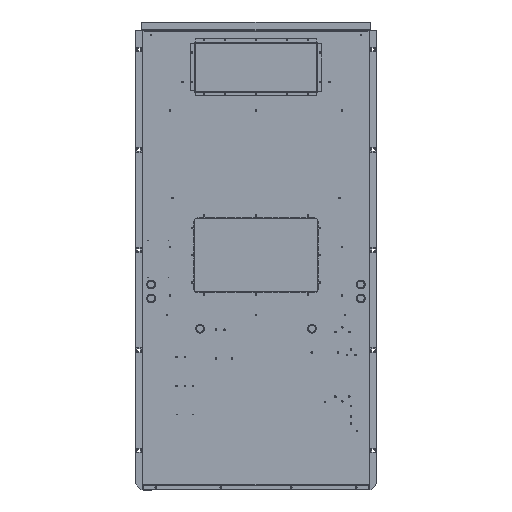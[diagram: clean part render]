
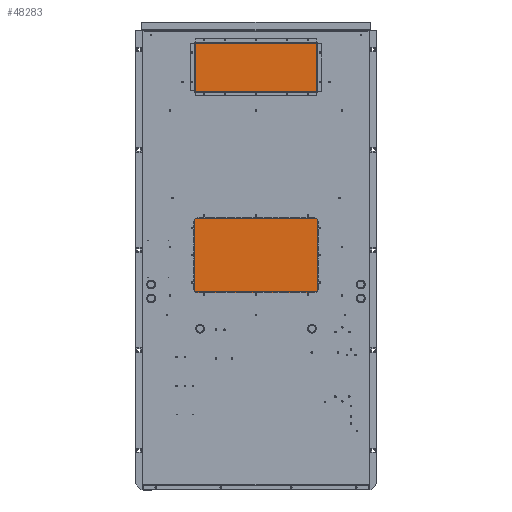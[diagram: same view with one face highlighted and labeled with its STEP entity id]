
A CAD part, top view. The second image highlights one B-rep face of the part: STEP entity #48283.
In plain terms, the highlighted planar face has unit normal (0, 0, 1).
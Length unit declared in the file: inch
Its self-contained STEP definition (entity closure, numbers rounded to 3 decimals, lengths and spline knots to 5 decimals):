
#1917 = ORIENTED_EDGE ( 'NONE', *, *, #104311, .F. ) ;
#2366 = FACE_OUTER_BOUND ( 'NONE', #42478, .T. ) ;
#9608 = EDGE_CURVE ( 'NONE', #14170, #130747, #35952, .T. ) ;
#11442 = DIRECTION ( 'NONE',  ( 1., 0., 0. ) ) ;
#11930 = CARTESIAN_POINT ( 'NONE',  ( 36.71, 113.2111, 16.484 ) ) ;
#12199 = ORIENTED_EDGE ( 'NONE', *, *, #100435, .T. ) ;
#12659 = LINE ( 'NONE', #11930, #56136 ) ;
#14170 = VERTEX_POINT ( 'NONE', #140885 ) ;
#19642 = LINE ( 'NONE', #100405, #104041 ) ;
#26193 = CARTESIAN_POINT ( 'NONE',  ( 36.71, 73.59437, 16.484 ) ) ;
#35952 = LINE ( 'NONE', #26193, #48614 ) ;
#42478 = EDGE_LOOP ( 'NONE', ( #65513, #12199, #135925, #1917 ) ) ;
#47992 = CARTESIAN_POINT ( 'NONE',  ( 36.71, 113.2111, 16.484 ) ) ;
#48283 = ADVANCED_FACE ( 'NONE', ( #2366 ), #71180, .F. ) ;
#48614 = VECTOR ( 'NONE', #71834, 39.37008 ) ;
#53327 = DIRECTION ( 'NONE',  ( 0., -1., 0. ) ) ;
#56136 = VECTOR ( 'NONE', #78537, 39.37008 ) ;
#56254 = VECTOR ( 'NONE', #11442, 39.37008 ) ;
#56339 = LINE ( 'NONE', #76530, #56254 ) ;
#56640 = EDGE_CURVE ( 'NONE', #110115, #91863, #56339, .T. ) ;
#65513 = ORIENTED_EDGE ( 'NONE', *, *, #9608, .F. ) ;
#65875 = DIRECTION ( 'NONE',  ( 0., 1., 0. ) ) ;
#71159 = CARTESIAN_POINT ( 'NONE',  ( 36.71, 73.59437, 16.484 ) ) ;
#71180 = PLANE ( 'NONE',  #147724 ) ;
#71834 = DIRECTION ( 'NONE',  ( 1., 0., 0. ) ) ;
#76530 = CARTESIAN_POINT ( 'NONE',  ( 36.71, 0., 16.484 ) ) ;
#78537 = DIRECTION ( 'NONE',  ( 0., -1., 0. ) ) ;
#79450 = CARTESIAN_POINT ( 'NONE',  ( 0.075, 0., 16.484 ) ) ;
#91863 = VERTEX_POINT ( 'NONE', #124629 ) ;
#100405 = CARTESIAN_POINT ( 'NONE',  ( 0.075, 113.2111, 16.484 ) ) ;
#100435 = EDGE_CURVE ( 'NONE', #14170, #110115, #19642, .T. ) ;
#104041 = VECTOR ( 'NONE', #53327, 39.37008 ) ;
#104311 = EDGE_CURVE ( 'NONE', #130747, #91863, #12659, .T. ) ;
#110115 = VERTEX_POINT ( 'NONE', #79450 ) ;
#120519 = DIRECTION ( 'NONE',  ( 0., 0., -1. ) ) ;
#124629 = CARTESIAN_POINT ( 'NONE',  ( 36.71, 0., 16.484 ) ) ;
#130747 = VERTEX_POINT ( 'NONE', #71159 ) ;
#135925 = ORIENTED_EDGE ( 'NONE', *, *, #56640, .T. ) ;
#140885 = CARTESIAN_POINT ( 'NONE',  ( 0.075, 73.59437, 16.484 ) ) ;
#147724 = AXIS2_PLACEMENT_3D ( 'NONE', #47992, #120519, #65875 ) ;
